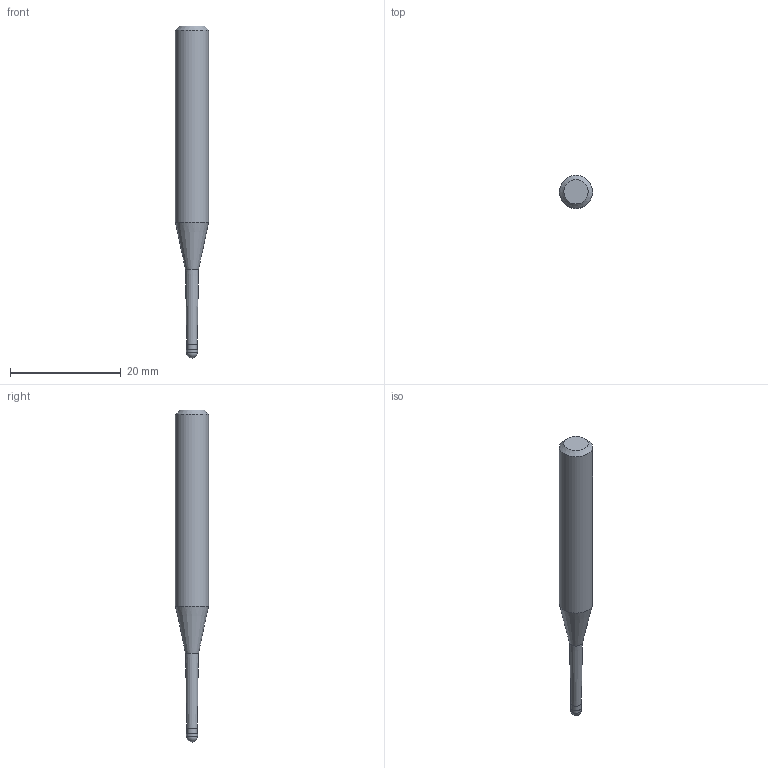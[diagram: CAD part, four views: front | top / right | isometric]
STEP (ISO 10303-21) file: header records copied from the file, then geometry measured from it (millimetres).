
FILE_DESCRIPTION((''),'2;1');
FILE_NAME('C:\Users\nsx150\AppData\Local\Temp\Mastercam 2021\E0ENTZRV18\TEMP.step','2021-09-02T09:56:48',(''),(''),'STEP Write','Mastercam 2021 ... CNC Software, Inc.','');
FILE_SCHEMA(('AUTOMOTIVE_DESIGN'));
Length unit declared in the file: millimetre
Products named in the file (1): None
Bounding box: 6 x 6 x 60 mm (x, y, z)
Volume: 1175.6 mm3; surface area: 912.6 mm2
Topology: 2 solids, 2 shells, 10 faces, 16 edges, 9 vertices
Faces by surface type: plane 3, cylinder 3, cone 3, sphere 1
Full cylindrical faces by diameter (mm): 1.875 x1, 2 x1, 6 x1
Entity records: 232 total; most frequent: DIRECTION 40, CARTESIAN_POINT 28, AXIS2_PLACEMENT_3D 20, ORIENTED_EDGE 16, EDGE_LOOP 16, STYLED_ITEM 13, ADVANCED_FACE 10, FACE_BOUND 9
